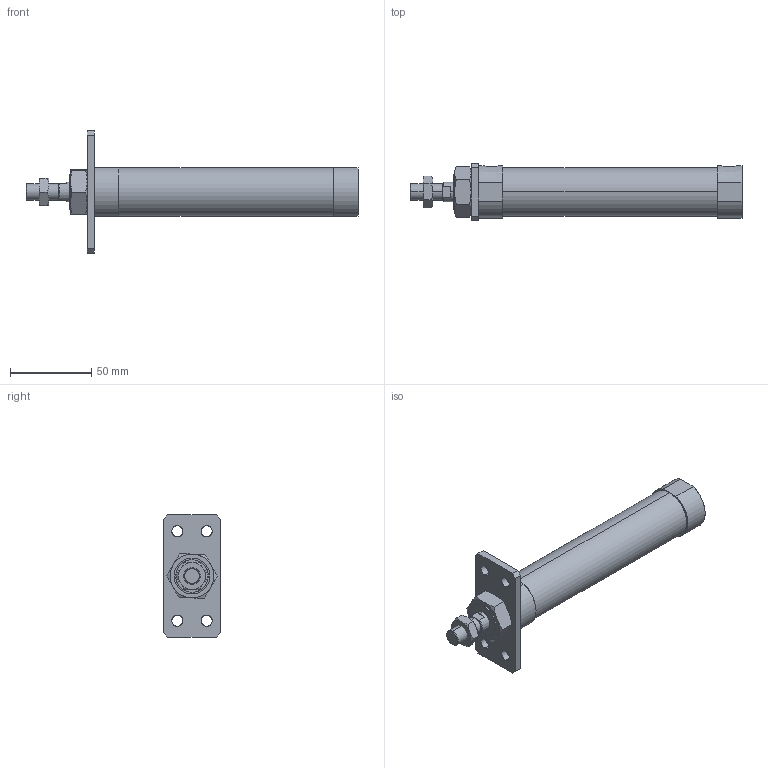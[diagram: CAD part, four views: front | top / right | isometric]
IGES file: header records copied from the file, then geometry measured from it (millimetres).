
Start section: SolidWorks IGES file using analytic representation for surfaces
Global section: file name: C:\Users\Toshiba\Desktop\JGND2-25-100-A.IGS; native system: SolidWorks 2014; preprocessor: SolidWorks 2014; author: Toshiba; date: 160804.103909; units: millimetre
Bounding box: 204 x 35 x 75 mm (x, y, z)
Surface area: 29123.1 mm2 (no closed solid volume)
Topology: 0 solids, 0 shells, 109 faces, 2000 edges, 1996 vertices
Faces by surface type: bspline 69, revolution 40
